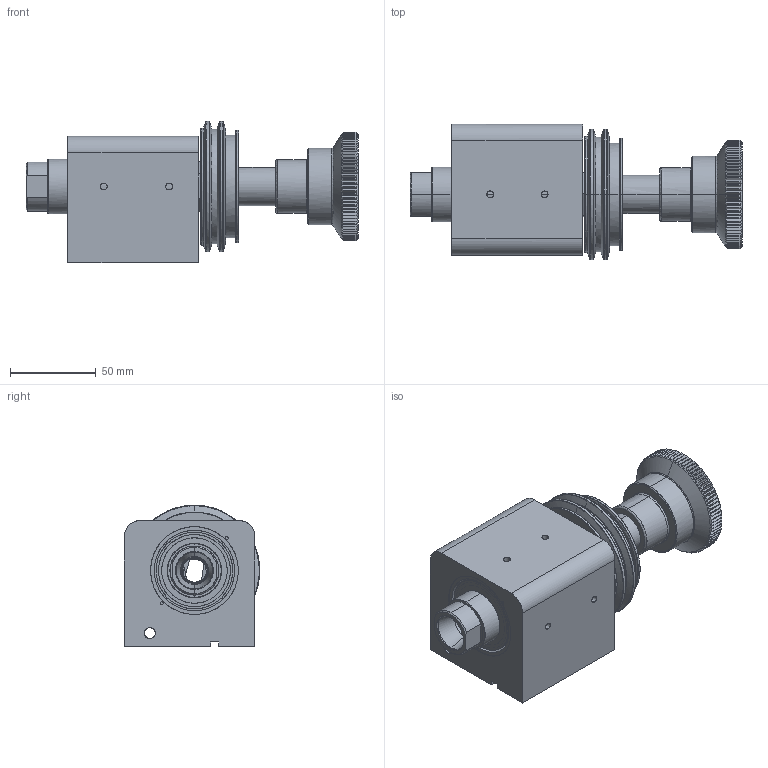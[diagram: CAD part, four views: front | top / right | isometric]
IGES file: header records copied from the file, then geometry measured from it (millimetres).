
Start section: Comment
Global section: file name: 3 collect head stock.igs; native system:  By Spatial Corp.; preprocessor: XPlus PS/IGES 3.0; author: Author; organization: Title; date: 20170711.084656; units: inch
Bounding box: 193.59 x 78.95 x 82.54 mm (x, y, z)
Surface area: 138404.8 mm2 (no closed solid volume)
Topology: 0 solids, 0 shells, 1044 faces, 4780 edges, 4780 vertices
Faces by surface type: revolution 722, extrusion 277, bspline 45
